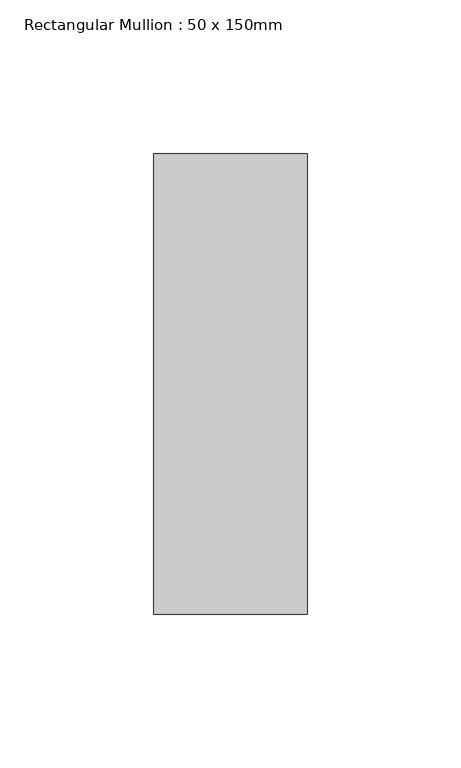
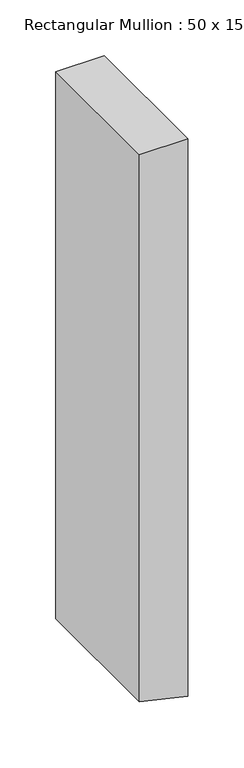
"""IFC4 building model written with IfcOpenShell, lengths in millimetres: member geometry, Rectangular Mullion : 50 x 150mm."""

from ifc_helpers import new_model, si_unit, frame, origin, place, context, project, spatial, polyline, outline, extrude, source, transform, mapped, element, save


def rectangular_mullion_50_x_150mm_e345bf82(model_context):
    return source(origin(), model_context, "Body", "SweptSolid", [
        extrude(outline(polyline([(0.0, 25.0), (0.0, -25.0), (-598.3663582, -25.0), (-606.4951902, 11.0099035), (-609.6532976, 25.0), (0.0, 25.0)])), frame((0.0, -75.0, 0.0), z_axis=(0.0, 1.0, 0.0), x_axis=(0.0, 0.0, 1.0)), (0.0, 0.0, 1.0), 150.0),
    ])


if __name__ == "__main__":
    model = new_model("IFC4")
    model_context = context("Model", 3, world=origin())
    ifc_project = project(units=[si_unit("LENGTHUNIT", "METRE", prefix="MILLI")], contexts=[model_context])
    site = spatial("IfcSite", under=ifc_project)
    building = spatial("IfcBuilding", under=site)
    placement = place(None, origin())
    rectangular_mullion_50_x_150mm_shape = rectangular_mullion_50_x_150mm_e345bf82(model_context)
    element("IfcMember", 1, ObjectType="Rectangular Mullion : 50 x 150mm", at=placement, inside=building, context=model_context, shape_type="MappedRepresentation", body=[
        mapped(rectangular_mullion_50_x_150mm_shape, transform((0.0, 0.0, 0.0), x_axis=(1.0, 0.0, 0.0), y_axis=(0.0, 1.0, 0.0), z_axis=(0.0, 0.0, 1.0))),
    ])
    save(model, "model.ifc")
